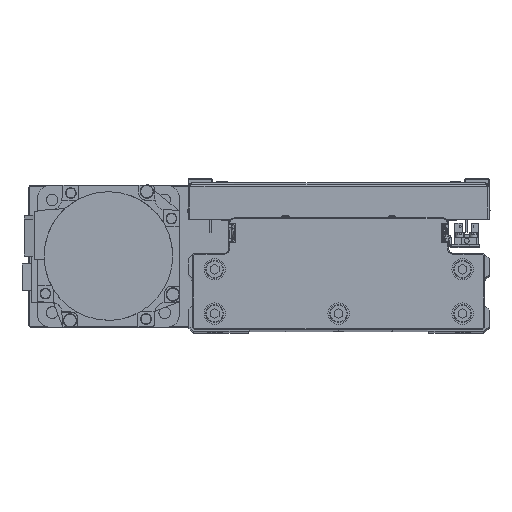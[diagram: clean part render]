
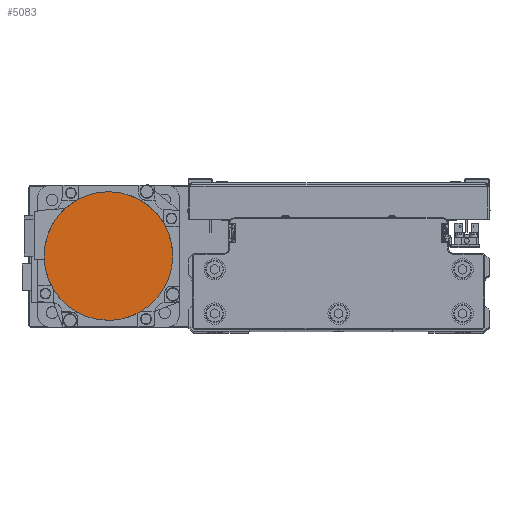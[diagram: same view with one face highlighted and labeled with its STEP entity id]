
A CAD part, top view. The second image highlights one B-rep face of the part: STEP entity #5083.
In plain terms, the highlighted planar face has unit normal (0, 0, 1) as drawn and (0, 0, -1) by its records, which use the part's own axes.
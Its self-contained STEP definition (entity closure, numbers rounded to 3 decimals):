
#740 = CARTESIAN_POINT ( 'NONE',  ( -16.086, 32.628, -122.2 ) ) ;
#833 = CARTESIAN_POINT ( 'NONE',  ( -32.628, -16.086, -122.2 ) ) ;
#1273 = DIRECTION ( 'NONE',  ( 0., 0., 1. ) ) ;
#1789 = EDGE_CURVE ( 'NONE', #38232, #40838, #13621, .T. ) ;
#4098 = CARTESIAN_POINT ( 'NONE',  ( -4.752, 36.066, -122.2 ) ) ;
#4190 = CARTESIAN_POINT ( 'NONE',  ( -36.066, -4.752, -122.2 ) ) ;
#4316 = CARTESIAN_POINT ( 'NONE',  ( -36.066, 4.752, -122.2 ) ) ;
#4410 = CARTESIAN_POINT ( 'NONE',  ( -4.752, -36.066, -122.2 ) ) ;
#5083 = ADVANCED_FACE ( 'NONE', ( #29822 ), #43415, .F. ) ;
#5162 = ORIENTED_EDGE ( 'NONE', *, *, #43548, .F. ) ;
#5478 = VERTEX_POINT ( 'NONE', #15050 ) ;
#6012 = B_SPLINE_CURVE_WITH_KNOTS ( 'NONE', 3,
 ( #21135, #34747, #4098, #17766, #31399, #740, #14416, #28048, #41657, #11063, #24717, #38309, #7684, #21349, #34957, #4316, #17985, #31629 ),
 .UNSPECIFIED., .F., .F.,
 ( 4, 2, 2, 2, 2, 2, 2, 2, 4 ),
 ( 0., 0.125, 0.25, 0.375, 0.5, 0.625, 0.75, 0.875, 1. ),
 .UNSPECIFIED. ) ;
#6721 = EDGE_LOOP ( 'NONE', ( #40675, #31734, #40697, #5162 ) ) ;
#7684 = CARTESIAN_POINT ( 'NONE',  ( -32.628, 16.086, -122.2 ) ) ;
#7779 = CARTESIAN_POINT ( 'NONE',  ( -16.086, -32.628, -122.2 ) ) ;
#9227 = CARTESIAN_POINT ( 'NONE',  ( 0., 0., -122.2 ) ) ;
#11063 = CARTESIAN_POINT ( 'NONE',  ( -27.348, 23.988, -122.2 ) ) ;
#11156 = CARTESIAN_POINT ( 'NONE',  ( -23.988, -27.348, -122.2 ) ) ;
#11892 = CARTESIAN_POINT ( 'NONE',  ( -36.3, 0., -122.2 ) ) ;
#12419 = CARTESIAN_POINT ( 'NONE',  ( 36.3, 0., -122.2 ) ) ;
#12828 = CARTESIAN_POINT ( 'NONE',  ( 0., 0., -122.2 ) ) ;
#13621 = CIRCLE ( 'NONE', #38575, 36.3 ) ;
#14416 = CARTESIAN_POINT ( 'NONE',  ( -18.192, 31.502, -122.2 ) ) ;
#14510 = CARTESIAN_POINT ( 'NONE',  ( -31.502, -18.192, -122.2 ) ) ;
#14953 = DIRECTION ( 'NONE',  ( -1., 0., 0. ) ) ;
#14975 = EDGE_CURVE ( 'NONE', #5478, #42716, #6012, .T. ) ;
#15050 = CARTESIAN_POINT ( 'NONE',  ( 0., 36.3, -122.2 ) ) ;
#17766 = CARTESIAN_POINT ( 'NONE',  ( -9.412, 35.139, -122.2 ) ) ;
#17857 = CARTESIAN_POINT ( 'NONE',  ( -35.139, -9.412, -122.2 ) ) ;
#17985 = CARTESIAN_POINT ( 'NONE',  ( -36.3, 2.376, -122.2 ) ) ;
#18079 = CARTESIAN_POINT ( 'NONE',  ( -2.376, -36.3, -122.2 ) ) ;
#19441 = AXIS2_PLACEMENT_3D ( 'NONE', #9227, #22875, #36485 ) ;
#21135 = CARTESIAN_POINT ( 'NONE',  ( 0., 36.3, -122.2 ) ) ;
#21223 = CARTESIAN_POINT ( 'NONE',  ( -36.3, 0., -122.2 ) ) ;
#21349 = CARTESIAN_POINT ( 'NONE',  ( -34.446, 11.696, -122.2 ) ) ;
#21437 = CARTESIAN_POINT ( 'NONE',  ( -11.696, -34.446, -122.2 ) ) ;
#22875 = DIRECTION ( 'NONE',  ( 0., 0., 1. ) ) ;
#23840 = AXIS2_PLACEMENT_3D ( 'NONE', #12828, #26467, #40073 ) ;
#24717 = CARTESIAN_POINT ( 'NONE',  ( -28.862, 22.143, -122.2 ) ) ;
#24804 = CARTESIAN_POINT ( 'NONE',  ( -22.143, -28.862, -122.2 ) ) ;
#26467 = DIRECTION ( 'NONE',  ( 0., 0., 1. ) ) ;
#28048 = CARTESIAN_POINT ( 'NONE',  ( -22.143, 28.862, -122.2 ) ) ;
#28142 = CARTESIAN_POINT ( 'NONE',  ( -28.862, -22.143, -122.2 ) ) ;
#29822 = FACE_OUTER_BOUND ( 'NONE', #6721, .T. ) ;
#31399 = CARTESIAN_POINT ( 'NONE',  ( -11.696, 34.446, -122.2 ) ) ;
#31490 = CARTESIAN_POINT ( 'NONE',  ( -34.446, -11.696, -122.2 ) ) ;
#31629 = CARTESIAN_POINT ( 'NONE',  ( -36.3, 0., -122.2 ) ) ;
#31720 = CARTESIAN_POINT ( 'NONE',  ( 0., -36.3, -122.2 ) ) ;
#31734 = ORIENTED_EDGE ( 'NONE', *, *, #38502, .F. ) ;
#31824 = CARTESIAN_POINT ( 'NONE',  ( 0., -36.3, -122.2 ) ) ;
#31933 = CARTESIAN_POINT ( 'NONE',  ( 0., 0., -122.2 ) ) ;
#34747 = CARTESIAN_POINT ( 'NONE',  ( -2.376, 36.3, -122.2 ) ) ;
#34836 = CARTESIAN_POINT ( 'NONE',  ( -36.3, -2.376, -122.2 ) ) ;
#34957 = CARTESIAN_POINT ( 'NONE',  ( -35.139, 9.412, -122.2 ) ) ;
#35050 = CARTESIAN_POINT ( 'NONE',  ( -9.412, -35.139, -122.2 ) ) ;
#36485 = DIRECTION ( 'NONE',  ( -1., 0., 0. ) ) ;
#37091 = B_SPLINE_CURVE_WITH_KNOTS ( 'NONE', 3,
 ( #21223, #34836, #4190, #17857, #31490, #833, #14510, #28142, #41749, #11156, #24804, #38391, #7779, #21437, #35050, #4410, #18079, #31720 ),
 .UNSPECIFIED., .F., .F.,
 ( 4, 2, 2, 2, 2, 2, 2, 2, 4 ),
 ( 0., 0.125, 0.25, 0.375, 0.5, 0.625, 0.75, 0.875, 1. ),
 .UNSPECIFIED. ) ;
#38232 = VERTEX_POINT ( 'NONE', #31824 ) ;
#38309 = CARTESIAN_POINT ( 'NONE',  ( -31.502, 18.192, -122.2 ) ) ;
#38391 = CARTESIAN_POINT ( 'NONE',  ( -18.192, -31.502, -122.2 ) ) ;
#38502 = EDGE_CURVE ( 'NONE', #42716, #38232, #37091, .T. ) ;
#38575 = AXIS2_PLACEMENT_3D ( 'NONE', #31933, #1273, #14953 ) ;
#38674 = CIRCLE ( 'NONE', #19441, 36.3 ) ;
#40073 = DIRECTION ( 'NONE',  ( 1., 0., 0. ) ) ;
#40675 = ORIENTED_EDGE ( 'NONE', *, *, #1789, .F. ) ;
#40697 = ORIENTED_EDGE ( 'NONE', *, *, #14975, .F. ) ;
#40838 = VERTEX_POINT ( 'NONE', #12419 ) ;
#41657 = CARTESIAN_POINT ( 'NONE',  ( -23.988, 27.348, -122.2 ) ) ;
#41749 = CARTESIAN_POINT ( 'NONE',  ( -27.348, -23.988, -122.2 ) ) ;
#42716 = VERTEX_POINT ( 'NONE', #11892 ) ;
#43415 = PLANE ( 'NONE',  #23840 ) ;
#43548 = EDGE_CURVE ( 'NONE', #40838, #5478, #38674, .T. ) ;
